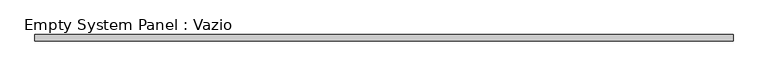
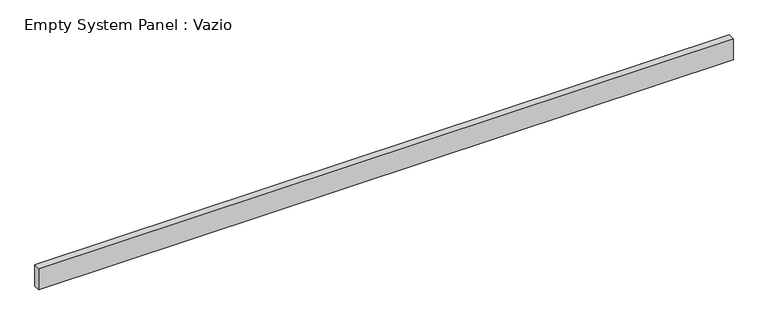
"""IFC4 building model written with IfcOpenShell, lengths in millimetres: plate geometry, Empty System Panel : Vazio."""

from ifc_helpers import new_model, si_unit, origin, origin_with_axes, place, context, project, spatial, polyline, outline, extrude, source, transform, mapped, element, save


def empty_system_panel_vazio_b4c02b83(model_context):
    return source(origin(), model_context, "Body", "SweptSolid", [
        extrude(outline(polyline([(5350.003242, 50.0), (-5350.003242, 50.0), (-5350.003242, 150.0), (5350.003242, 150.0), (5350.003242, 50.0)])), origin_with_axes(), (0.0, 0.0, 1.0), 344.4204966),
    ])


if __name__ == "__main__":
    model = new_model("IFC4")
    model_context = context("Model", 3, world=origin())
    ifc_project = project(units=[si_unit("LENGTHUNIT", "METRE", prefix="MILLI")], contexts=[model_context])
    site = spatial("IfcSite", under=ifc_project)
    building = spatial("IfcBuilding", under=site)
    placement = place(None, origin())
    empty_system_panel_vazio_shape = empty_system_panel_vazio_b4c02b83(model_context)
    element("IfcPlate", 1, ObjectType="Empty System Panel : Vazio", at=placement, inside=building, context=model_context, shape_type="MappedRepresentation", body=[
        mapped(empty_system_panel_vazio_shape, transform((0.0, 0.0, 0.0), x_axis=(1.0, 0.0, 0.0), y_axis=(0.0, 1.0, 0.0), z_axis=(0.0, 0.0, 1.0))),
    ])
    save(model, "model.ifc")
